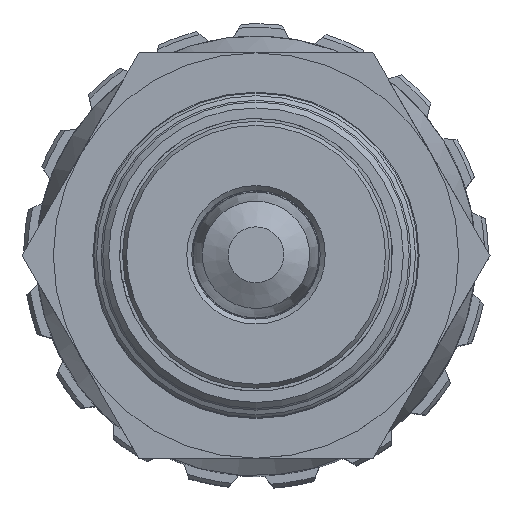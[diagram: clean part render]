
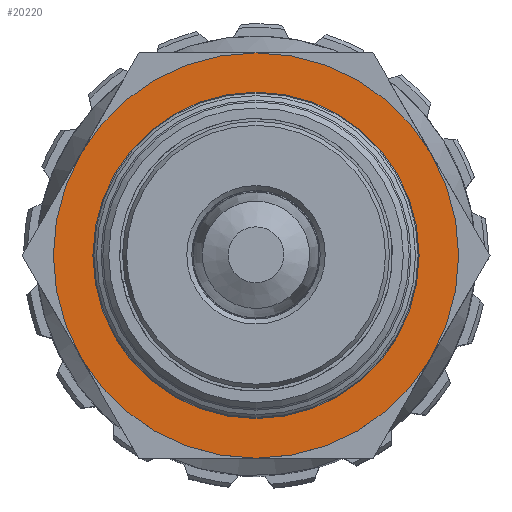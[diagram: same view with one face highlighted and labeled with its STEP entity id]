
A CAD part, top view. The second image highlights one B-rep face of the part: STEP entity #20220.
In plain terms, the highlighted planar face has unit normal (0, 0, 1).
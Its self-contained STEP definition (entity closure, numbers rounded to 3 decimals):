
#464 = CARTESIAN_POINT ( 'NONE',  ( 0., 0., 10.5 ) ) ;
#2451 = DIRECTION ( 'NONE',  ( 1., 0., 0. ) ) ;
#4772 = FACE_OUTER_BOUND ( 'NONE', #19946, .T. ) ;
#4933 = DIRECTION ( 'NONE',  ( 0., 0., 1. ) ) ;
#7713 = ORIENTED_EDGE ( 'NONE', *, *, #12936, .T. ) ;
#9741 = VERTEX_POINT ( 'NONE', #17333 ) ;
#12936 = EDGE_CURVE ( 'NONE', #9741, #9741, #20589, .T. ) ;
#13726 = AXIS2_PLACEMENT_3D ( 'NONE', #22762, #20597, #19950 ) ;
#14014 = ORIENTED_EDGE ( 'NONE', *, *, #24823, .F. ) ;
#15004 = CARTESIAN_POINT ( 'NONE',  ( 0., 0., 10.5 ) ) ;
#17333 = CARTESIAN_POINT ( 'NONE',  ( 20.5, 0., 10.5 ) ) ;
#17474 = AXIS2_PLACEMENT_3D ( 'NONE', #15004, #4933, #2451 ) ;
#17610 = CARTESIAN_POINT ( 'NONE',  ( 14.5, 0., 10.5 ) ) ;
#18312 = DIRECTION ( 'NONE',  ( 1., 0., 0. ) ) ;
#19946 = EDGE_LOOP ( 'NONE', ( #7713 ) ) ;
#19950 = DIRECTION ( 'NONE',  ( 1., 0., 0. ) ) ;
#20220 = ADVANCED_FACE ( 'NONE', ( #4772, #24786 ), #27750, .T. ) ;
#20589 = CIRCLE ( 'NONE', #13726, 20.5 ) ;
#20597 = DIRECTION ( 'NONE',  ( 0., 0., 1. ) ) ;
#20799 = AXIS2_PLACEMENT_3D ( 'NONE', #464, #28565, #18312 ) ;
#22762 = CARTESIAN_POINT ( 'NONE',  ( 0., 0., 10.5 ) ) ;
#24786 = FACE_BOUND ( 'NONE', #29223, .T. ) ;
#24823 = EDGE_CURVE ( 'NONE', #25241, #25241, #25041, .T. ) ;
#25041 = CIRCLE ( 'NONE', #20799, 14.5 ) ;
#25241 = VERTEX_POINT ( 'NONE', #17610 ) ;
#27750 = PLANE ( 'NONE',  #17474 ) ;
#28565 = DIRECTION ( 'NONE',  ( 0., 0., 1. ) ) ;
#29223 = EDGE_LOOP ( 'NONE', ( #14014 ) ) ;
